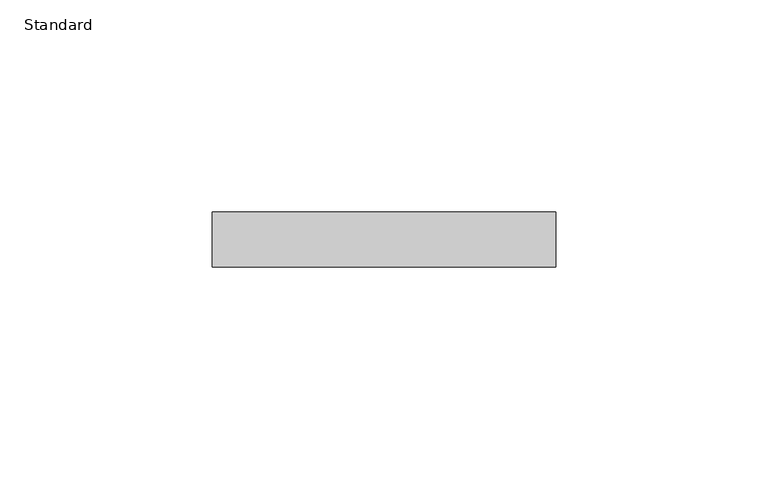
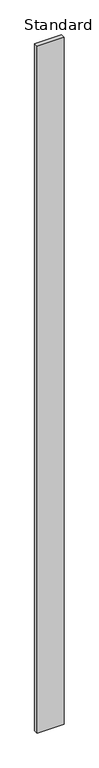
"""IFC4 building model written with IfcOpenShell, lengths in millimetres: furniture geometry, X_Partition-Compact Laminate-Duracube-Rectangular : Standard."""

from ifc_helpers import new_model, si_unit, frame, origin, place, context, project, spatial, polyline, outline, extrude, source, transform, mapped, element, save


def standard_794593c2(model_context):
    return source(origin(), model_context, "Body", "SweptSolid", [
        extrude(outline(polyline([(85.2003264, 0.0), (85.2003264, -13.0), (4.2003264, -13.0), (4.2003264, 0.0), (85.2003264, 0.0)])), frame((0.0, 0.0, 200.0), z_axis=(0.0, 0.0, 1.0), x_axis=(1.0, 0.0, 0.0)), (0.0, 0.0, 1.0), 2198.0),
    ])


if __name__ == "__main__":
    model = new_model("IFC4")
    model_context = context("Model", 3, world=origin())
    ifc_project = project(units=[si_unit("LENGTHUNIT", "METRE", prefix="MILLI")], contexts=[model_context])
    site = spatial("IfcSite", under=ifc_project)
    building = spatial("IfcBuilding", under=site)
    placement = place(None, origin())
    standard_shape = standard_794593c2(model_context)
    element("IfcFurniture", 1, ObjectType="X_Partition-Compact Laminate-Duracube-Rectangular : Standard", at=placement, inside=building, context=model_context, shape_type="MappedRepresentation", body=[
        mapped(standard_shape, transform((0.0, 0.0, 0.0), x_axis=(1.0, 0.0, 0.0), y_axis=(0.0, 1.0, 0.0), z_axis=(0.0, 0.0, 1.0))),
    ])
    save(model, "model.ifc")
